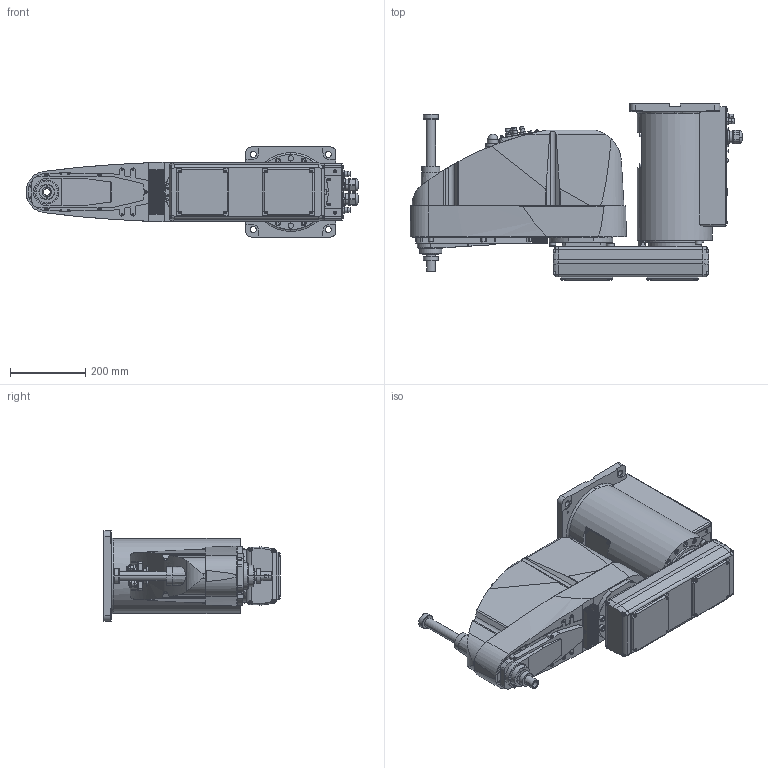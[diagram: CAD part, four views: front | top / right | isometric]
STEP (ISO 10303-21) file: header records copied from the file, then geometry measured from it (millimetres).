
FILE_DESCRIPTION( ( '' ), '1' );
FILE_NAME( '//expscmdclustefs.cadenas.external/client_exchange/iodir/jobs/output/wkb51512232_no0/STEP/G10_651SR_2_03.stp', '2012-11-22T15:30:48', ( '' ), ( '' ), ' ', ' ', ' ' );
FILE_SCHEMA( ( 'CONFIG_CONTROL_DESIGN' ) );
Length unit declared in the file: millimetre
Products named in the file (4): 1; 2; 3; 4
Bounding box: 884.5 x 469 x 240 mm (x, y, z)
Volume: 38137917.2 mm3; surface area: 1337055.6 mm2
Topology: 4 solids, 6 shells, 1935 faces, 4739 edges, 3078 vertices
Faces by surface type: plane 1091, cylinder 620, cone 196, torus 27, sphere 1
Entity records: 58315 total; most frequent: CARTESIAN_POINT 11295, DIRECTION 10011, ORIENTED_EDGE 9454, EDGE_CURVE 4727, AXIS2_PLACEMENT_3D 3468, VERTEX_POINT 3078, LINE 3075, VECTOR 3075
